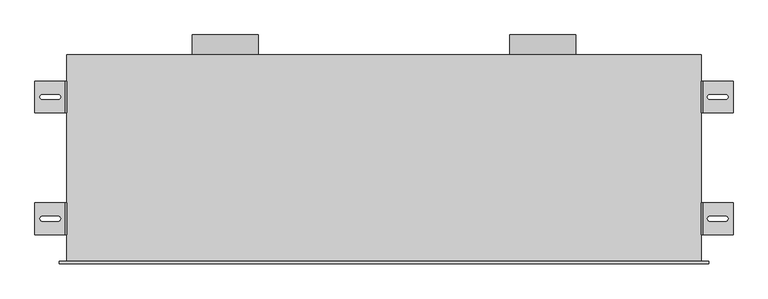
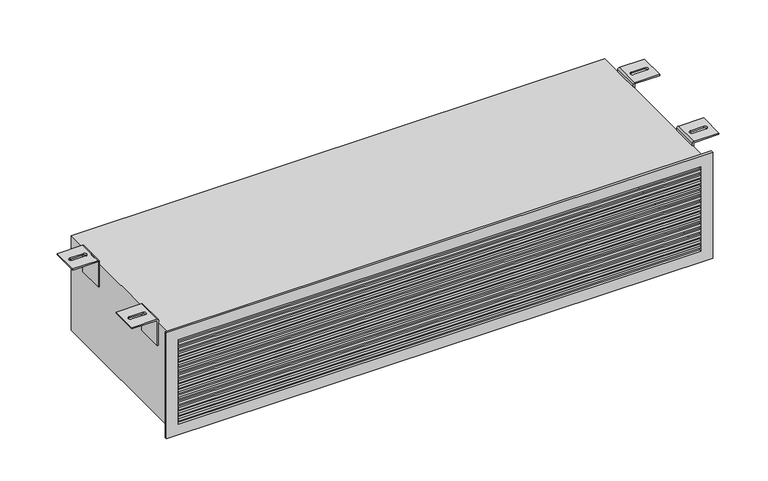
"""IFC4 building model written with IfcOpenShell, lengths in millimetres: air terminal geometry, EOL - Mural - 2 piquages : EOL-M2x125-1200x225-2."""

import ifcopenshell
import ifcopenshell.guid

model = None  # the IFC model being written
_history = None  # IfcOwnerHistory: only IFC2X3 demands one
_inside = {}  # id of a spatial element -> (the spatial element, [elements in it])
_under = {}  # id of a project, library or spatial element -> (it, [spatial elements below it])
_declared = {}  # id of a project -> (the project, [libraries it declares])
_typed = {}  # id of a type object -> (the type object, [elements of that type])
_made_of = {}  # id of a material, layer set ... -> (it, [elements and type objects made of it])


def new_model(schema):
    """Start an empty IFC model of exactly this schema.

    Asked for "IFC4X3", IfcOpenShell would pick the latest addendum, in which some entities
    have other attributes; the version numbers below select the first issue.
    IFC2X3 requires an IfcOwnerHistory on every rooted entity: one is made here for all.
    """
    global model, _history
    if schema == "IFC4X3":
        model = ifcopenshell.file(schema_version=(4, 3, 0, 0))
    else:
        model = ifcopenshell.file(schema=schema)
    _inside.clear()
    _under.clear()
    _declared.clear()
    _typed.clear()
    _made_of.clear()
    _history = None
    if model.schema == "IFC2X3":
        org = make("IfcOrganization", Name="unknown")
        user = make(
            "IfcPersonAndOrganization",
            ThePerson=make("IfcPerson", FamilyName="unknown"),
            TheOrganization=org,
        )
        app = make(
            "IfcApplication",
            ApplicationDeveloper=org,
            Version="unknown",
            ApplicationFullName="unknown",
            ApplicationIdentifier="unknown",
        )
        _history = make(
            "IfcOwnerHistory",
            OwningUser=user,
            OwningApplication=app,
            ChangeAction="ADDED",
            CreationDate=0,
        )
    return model


def make(cls, **values):
    """One entity of the class cls with the attributes given. An attribute that is None is left unset."""
    return model.create_entity(
        cls, **{name: value for name, value in values.items() if value is not None}
    )


def rooted(cls, **values):
    """An entity with a GlobalId (a new one), such as an element, a storey or a relation."""
    return make(cls, GlobalId=ifcopenshell.guid.new(), OwnerHistory=_history, **values)


def si_unit(unit_type, name, prefix=None):
    """IfcSIUnit, for example si_unit("LENGTHUNIT", "METRE", prefix="MILLI")."""
    return make("IfcSIUnit", UnitType=unit_type, Prefix=prefix, Name=name)


def assignment(units):
    """IfcUnitAssignment: the units of a project."""
    return None if units is None else make("IfcUnitAssignment", Units=units)


def point(xyz):
    """IfcCartesianPoint."""
    return None if xyz is None else make("IfcCartesianPoint", Coordinates=xyz)


def direction(xyz):
    """IfcDirection."""
    return None if xyz is None else make("IfcDirection", DirectionRatios=xyz)


def frame(location, z_axis=None, x_axis=None):
    """IfcAxis2Placement3D, a coordinate frame: its origin and axes. An axis left out is left unset."""
    return make(
        "IfcAxis2Placement3D",
        Location=point(location),
        Axis=direction(z_axis),
        RefDirection=direction(x_axis),
    )


def frame_2d(location, x_axis=None):
    """IfcAxis2Placement2D, a coordinate frame in the plane: its origin and x axis."""
    return make(
        "IfcAxis2Placement2D", Location=point(location), RefDirection=direction(x_axis)
    )


def origin():
    """The frame at (0, 0, 0) with its axes left unset."""
    return frame((0.0, 0.0, 0.0))


def place(relative_to, where):
    """IfcLocalPlacement: puts the frame where relative to a parent placement (None: the world)."""
    return make(
        "IfcLocalPlacement", PlacementRelTo=relative_to, RelativePlacement=where
    )


def context(
    kind, dimensions, precision=None, world=None, true_north=None, identifier=None
):
    """IfcGeometricRepresentationContext, for example the 3D "Model" context."""
    return make(
        "IfcGeometricRepresentationContext",
        ContextIdentifier=identifier,
        ContextType=kind,
        CoordinateSpaceDimension=dimensions,
        Precision=precision,
        WorldCoordinateSystem=world,
        TrueNorth=true_north,
    )


def project(units=None, contexts=None):
    """IfcProject with its units and contexts."""
    return rooted(
        "IfcProject",
        Name="project",
        RepresentationContexts=contexts,
        UnitsInContext=assignment(units),
    )


def spatial(cls, under=None, at=None, **own):
    """A site, building, storey or space (cls), placed at a placement, below another one or the project."""
    s = rooted(cls, ObjectPlacement=at, **own)
    if under is not None:
        _under.setdefault(under.id(), (under, []))[1].append(s)
    return s


def polyline(points):
    """IfcPolyline through the points."""
    return make("IfcPolyline", Points=[point(p) for p in points])


def circle_curve(where, radius):
    """IfcCircle in the frame where."""
    return make("IfcCircle", Position=where, Radius=radius)


def ellipse_curve(where, semi_axis1, semi_axis2):
    """IfcEllipse in the frame where."""
    return make(
        "IfcEllipse", Position=where, SemiAxis1=semi_axis1, SemiAxis2=semi_axis2
    )


def trimmed(basis, trim1, trim2, sense, master):
    """IfcTrimmedCurve: the piece of a basis curve between two trims."""
    return make(
        "IfcTrimmedCurve",
        BasisCurve=basis,
        Trim1=trim1,
        Trim2=trim2,
        SenseAgreement=sense,
        MasterRepresentation=master,
    )


def segment(curve, same_sense, transition):
    """IfcCompositeCurveSegment."""
    return make(
        "IfcCompositeCurveSegment",
        Transition=transition,
        SameSense=same_sense,
        ParentCurve=curve,
    )


def composite_curve(segments, self_intersect=None):
    """IfcCompositeCurve: segments joined end to end."""
    return make("IfcCompositeCurve", Segments=segments, SelfIntersect=self_intersect)


def outline(outer, holes=None, kind="AREA"):
    """IfcArbitraryClosedProfileDef: a profile drawn as a closed curve; with holes, ...WithVoids."""
    if holes is None:
        return make("IfcArbitraryClosedProfileDef", ProfileType=kind, OuterCurve=outer)
    return make(
        "IfcArbitraryProfileDefWithVoids",
        ProfileType=kind,
        OuterCurve=outer,
        InnerCurves=holes,
    )


def extrude(swept, where, along, depth):
    """IfcExtrudedAreaSolid: the profile swept, set in the frame where, extruded along a direction by depth."""
    return make(
        "IfcExtrudedAreaSolid",
        SweptArea=swept,
        Position=where,
        ExtrudedDirection=direction(along),
        Depth=depth,
    )


def shape(context_of_items, identifier, shape_type, items):
    """IfcShapeRepresentation: the items that make up one representation, for example the "Body"."""
    return make(
        "IfcShapeRepresentation",
        ContextOfItems=context_of_items,
        RepresentationIdentifier=identifier,
        RepresentationType=shape_type,
        Items=items,
    )


def source(mapping_origin, context_of_items, identifier, shape_type, items):
    """IfcRepresentationMap: a shape defined once, which mapped items show again and again."""
    return make(
        "IfcRepresentationMap",
        MappingOrigin=mapping_origin,
        MappedRepresentation=shape(context_of_items, identifier, shape_type, items),
    )


def transform(
    local_origin,
    x_axis=None,
    y_axis=None,
    z_axis=None,
    scale=None,
    scale2=None,
    scale3=None,
    uniform=True,
):
    """IfcCartesianTransformationOperator3D, or its non-uniform kind. x_axis, y_axis, z_axis: its Axis1, 2, 3."""
    if uniform:
        return make(
            "IfcCartesianTransformationOperator3D",
            Axis1=direction(x_axis),
            Axis2=direction(y_axis),
            LocalOrigin=point(local_origin),
            Scale=scale,
            Axis3=direction(z_axis),
        )
    return make(
        "IfcCartesianTransformationOperator3DnonUniform",
        Axis1=direction(x_axis),
        Axis2=direction(y_axis),
        LocalOrigin=point(local_origin),
        Scale=scale,
        Axis3=direction(z_axis),
        Scale2=scale2,
        Scale3=scale3,
    )


def mapped(mapping_source, mapping_target):
    """IfcMappedItem: shows the shape of a source again, moved by a transform."""
    return make(
        "IfcMappedItem", MappingSource=mapping_source, MappingTarget=mapping_target
    )


def made_of(thing, what):
    """Note that an element or type object is made of a material, layer set ...; save() writes the relation."""
    if what is not None:
        _made_of.setdefault(what.id(), (what, []))[1].append(thing)
    return thing


def element(
    cls,
    number,
    at=None,
    inside=None,
    cuts=None,
    type_object=None,
    material=None,
    context=None,
    identifier="Body",
    shape_type=None,
    held_by="IfcProductDefinitionShape",
    body=None,
    shapes=None,
    **own,
):
    """One element of the class cls, such as IfcWall. Its Tag is "e" and its number.

    at: its placement. inside: the storey or other place that contains it. cuts: it is an
    opening in that element (IfcRelVoidsElement). A single representation is given by context,
    identifier, shape_type and body (its items); several are given by shapes. held_by: the class
    of the entity that holds the representations. save() writes the other relations.
    """
    e = rooted(cls, Tag="e%d" % number, ObjectPlacement=at, **own)
    if body is not None:
        shapes = [shape(context, identifier, shape_type, body)]
    if shapes is not None:
        e.Representation = make(held_by, Representations=shapes)
    if inside is not None:
        _inside.setdefault(inside.id(), (inside, []))[1].append(e)
    if cuts is not None:
        rooted(
            "IfcRelVoidsElement", RelatingBuildingElement=cuts, RelatedOpeningElement=e
        )
    if type_object is not None:
        _typed.setdefault(type_object.id(), (type_object, []))[1].append(e)
    return made_of(e, material)


def aggregate(whole, parts):
    """IfcRelAggregates: a whole, such as a stair, and the parts it consists of."""
    return rooted("IfcRelAggregates", RelatingObject=whole, RelatedObjects=parts)


def save(model, path):
    """Write the relations noted so far, then the file.

    IfcRelAggregates (storeys below a building ...), IfcRelContainedInSpatialStructure (elements
    in a storey), IfcRelDefinesByType, IfcRelAssociatesMaterial and IfcRelDeclares: one each for
    every whole, place, type object, material and project.
    """
    for whole, parts in _under.values():
        aggregate(whole, parts)
    for where, things in _inside.values():
        rooted(
            "IfcRelContainedInSpatialStructure",
            RelatedElements=things,
            RelatingStructure=where,
        )
    for kind, things in _typed.values():
        rooted("IfcRelDefinesByType", RelatedObjects=things, RelatingType=kind)
    for what, things in _made_of.values():
        rooted("IfcRelAssociatesMaterial", RelatedObjects=things, RelatingMaterial=what)
    for by, libraries in _declared.values():
        rooted("IfcRelDeclares", RelatingContext=by, RelatedDefinitions=libraries)
    model.write(path)


def plane_surface(at):
    """IfcPlane: the flat surface through the origin of the frame at, square to its z axis."""
    return make("IfcPlane", Position=at)


def cylinder_surface(at, radius):
    """IfcCylindricalSurface: all points at the distance radius from the z axis of the frame at."""
    return make("IfcCylindricalSurface", Position=at, Radius=radius)


def revolved_surface(curve, axis_point, axis_direction):
    """IfcSurfaceOfRevolution: the curve turned about the line through axis_point along axis_direction."""
    return make(
        "IfcSurfaceOfRevolution",
        SweptCurve=make("IfcArbitraryOpenProfileDef", ProfileType="CURVE", Curve=curve),
        AxisPosition=make("IfcAxis1Placement", Location=point(axis_point), Axis=direction(axis_direction)),
    )


def extruded_surface(curve, direction_of_extrusion, depth):
    """IfcSurfaceOfLinearExtrusion: the curve pushed along a direction by depth."""
    return make(
        "IfcSurfaceOfLinearExtrusion",
        SweptCurve=make("IfcArbitraryOpenProfileDef", ProfileType="CURVE", Curve=curve),
        ExtrudedDirection=direction(direction_of_extrusion),
        Depth=depth,
    )


def advanced_brep(points, edges, surfaces, faces):
    """IfcAdvancedBrep: a solid bounded by faces that lie on surfaces and meet in shared edges.

    An edge is (start, end): straight between two places in points (the first is 0);
    or (start, end, curve); or (start, end, curve, False) where it runs against its curve.
    A face is (place in surfaces, loops), or (place, loops, False) where it looks against
    its surface's normal. A loop lists edges by number (the first is 1), with a minus sign
    where the edge is run from its end to its start. The first loop is the outer one.
    """
    corners = [point(p) for p in points]
    vertices = [make("IfcVertexPoint", VertexGeometry=c) for c in corners]
    made = []
    for start, end, *more in edges:
        made.append(
            make(
                "IfcEdgeCurve",
                EdgeStart=vertices[start],
                EdgeEnd=vertices[end],
                EdgeGeometry=more[0] if more else make("IfcPolyline", Points=[corners[start], corners[end]]),
                SameSense=more[1] if len(more) > 1 else True,
            )
        )
    hull = []
    for where, loops, *sense in faces:
        bounds = []
        for j, loop in enumerate(loops):
            ring = [make("IfcOrientedEdge", EdgeElement=made[abs(k) - 1], Orientation=k > 0) for k in loop]
            bounds.append(
                make(
                    "IfcFaceOuterBound" if j == 0 else "IfcFaceBound",
                    Bound=make("IfcEdgeLoop", EdgeList=ring),
                    Orientation=True,
                )
            )
        hull.append(make("IfcAdvancedFace", Bounds=bounds, FaceSurface=surfaces[where], SameSense=sense[0] if sense else True))
    return make("IfcAdvancedBrep", Outer=make("IfcClosedShell", CfsFaces=hull))


def air_terminal_c7b727d0(model_context):
    return source(origin(), model_context, "Body", "SolidModel", [
        advanced_brep(
        [(604.0013366, 110.0, 121.5), (660.0, 110.0, 121.5), (660.0, 110.0, 118.5), (604.0, 110.0, 118.5), (603.0, 110.0, 117.5), (603.0, 110.0, 58.5), (600.0, 110.0, 58.5), (600.0, 110.0, 117.4986634), (604.0013366, 50.0, 121.5), (600.0, 50.0, 117.4986634), (600.0, 50.0, 58.5), (603.0, 50.0, 58.5), (603.0, 50.0, 117.5), (604.0, 50.0, 118.5), (660.0, 50.0, 118.5), (660.0, 50.0, 121.5), (646.0287952, 75.4804328, 121.5), (616.0287952, 75.4804328, 121.5), (616.0287952, 84.4804328, 121.5), (646.0287952, 84.4804328, 121.5), (616.0287952, 75.4804328, 118.5), (646.0287952, 75.4804328, 118.5), (646.0287952, 84.4804328, 118.5), (616.0287952, 84.4804328, 118.5)],
        [
            (0, 1),
            (1, 2),
            (2, 3),
            (3, 4, circle_curve(frame((604.0, 110.0, 117.5), z_axis=(0.0, -1.0, 0.0), x_axis=(-1.0000000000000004, 0.0, 0.0)), 1.0)),
            (4, 5),
            (5, 6),
            (6, 7),
            (7, 0, circle_curve(frame((604.0013366, 110.0, 117.4986634), z_axis=(0.0, 1.0, 0.0), x_axis=(-1.0000000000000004, 0.0, 0.0)), 4.0013366)),
            (8, 9, circle_curve(frame((604.0013366, 50.0, 117.4986634), z_axis=(0.0, -1.0, 0.0), x_axis=(-1.0000000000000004, 0.0, 0.0)), 4.0013366)),
            (9, 10),
            (10, 11),
            (11, 12),
            (12, 13, circle_curve(frame((604.0, 50.0, 117.5), z_axis=(0.0, 1.0, 0.0), x_axis=(-1.0000000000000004, 0.0, 0.0)), 1.0)),
            (13, 14),
            (14, 15),
            (15, 8),
            (0, 8),
            (15, 1),
            (16, 17),
            (17, 18, circle_curve(frame((616.0287952, 79.9804328, 121.5), z_axis=(0.0, 0.0, -1.0), x_axis=(0.0, -1.0, 0.0)), 4.5)),
            (18, 19),
            (19, 16, circle_curve(frame((646.0287952, 79.9804328, 121.5), z_axis=(0.0, 0.0, -1.0), x_axis=(0.0, -1.0, 0.0)), 4.5)),
            (14, 2),
            (13, 3),
            (20, 21),
            (21, 22, ellipse_curve(frame((646.0287952, 79.9804328, 118.5), z_axis=(0.0, 0.0, 1.0), x_axis=(0.0, -1.0, 0.0)), 4.5, 4.5)),
            (22, 23),
            (23, 20, ellipse_curve(frame((616.0287952, 79.9804328, 118.5), z_axis=(0.0, 0.0, 1.0), x_axis=(0.0, -1.0, 0.0)), 4.5, 4.5)),
            (12, 4),
            (11, 5),
            (10, 6),
            (9, 7),
            (16, 21),
            (20, 17),
            (19, 22),
            (18, 23),
        ],
        [
            plane_surface(frame((660.0, 110.0, 121.5), z_axis=(0.0, 1.0, 0.0), x_axis=(1.0, 0.0, 0.0))),
            plane_surface(frame((660.0, 50.0, 121.5), z_axis=(0.0, -1.0, 0.0), x_axis=(-1.0, 0.0, 0.0))),
            plane_surface(frame((604.0013366, 110.0, 121.5), z_axis=(0.0, 0.0, 1.0), x_axis=(0.0, -1.0, 0.0))),
            plane_surface(frame((660.0, 110.0, 121.5), z_axis=(1.0, 0.0, 0.0), x_axis=(0.0, -1.0, 0.0))),
            plane_surface(frame((660.0, 110.0, 118.5), z_axis=(0.0, 0.0, -1.0), x_axis=(0.0, -1.0, 0.0))),
            revolved_surface(polyline([(603.0, 50.0, 117.5), (603.0, 110.00000000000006, 117.5)]), (604.0, 50.0, 117.5), (0.0, -1.0000000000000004, 0.0)),
            plane_surface(frame((603.0, 110.0, 117.5), z_axis=(1.0, 0.0, 0.0), x_axis=(0.0, -1.0, 0.0))),
            plane_surface(frame((603.0, 110.0, 58.5), z_axis=(0.0, 0.0, -1.0), x_axis=(0.0, -1.0, 0.0))),
            plane_surface(frame((600.0, 110.0, 58.5), z_axis=(-1.0, 0.0, 0.0), x_axis=(0.0, -1.0, 0.0))),
            cylinder_surface(frame((604.0013366, 50.0, 117.4986634), z_axis=(0.0, 1.0000000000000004, 0.0), x_axis=(-1.0000000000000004, 0.0, 0.0)), 4.0013366),
            plane_surface(frame((616.0287952, 75.4804328, 121.5), z_axis=(0.0, 1.0, 0.0), x_axis=(0.0, 0.0, -1.0))),
            extruded_surface(trimmed(ellipse_curve(frame((646.0287952, 79.9804328, 118.5), z_axis=(0.0, 0.0, 1.0), x_axis=(0.0, -1.0, 0.0)), 4.5, 4.5), [point((646.0287952, 75.4804328, 118.5))], [point((646.0287952, 84.4804328, 118.5))], True, "CARTESIAN"), (0.0, 0.0, -3.0), 3.0),
            plane_surface(frame((646.0287952, 84.4804328, 121.5), z_axis=(0.0, -1.0, 0.0), x_axis=(0.0, 0.0, -1.0))),
            extruded_surface(trimmed(ellipse_curve(frame((616.0287952, 79.9804328, 118.5), z_axis=(0.0, 0.0, 1.0), x_axis=(0.0, -1.0, 0.0)), 4.5, 4.5), [point((616.0287952, 84.4804328, 118.5))], [point((616.0287952, 75.4804328, 118.5))], True, "CARTESIAN"), (0.0, 0.0, -3.0), 3.0),
        ],
        [
            (0, [[1, 2, 3, 4, 5, 6, 7, 8]]),
            (1, [[9, 10, 11, 12, 13, 14, 15, 16]]),
            (2, [[-1, 17, -16, 18], [19, 20, 21, 22]]),
            (3, [[-2, -18, -15, 23]]),
            (4, [[-3, -23, -14, 24], [25, 26, 27, 28]]),
            (5, [[-4, -24, -13, 29]]),
            (6, [[-5, -29, -12, 30]]),
            (7, [[-6, -30, -11, 31]]),
            (8, [[-7, -31, -10, 32]]),
            (9, [[-8, -32, -9, -17]]),
            (10, [[33, -25, 34, -19]]),
            (11, [[-33, -22, 35, -26]]),
            (12, [[-35, -21, 36, -27]]),
            (13, [[-34, -28, -36, -20]]),
        ],
    ),
        advanced_brep(
        [(604.0013366, 340.0, 121.5), (660.0, 340.0, 121.5), (660.0, 340.0, 118.5), (604.0, 340.0, 118.5), (603.0, 340.0, 117.5), (603.0, 340.0, 58.5), (600.0, 340.0, 58.5), (600.0, 340.0, 117.4986634), (604.0013366, 280.0, 121.5), (600.0, 280.0, 117.4986634), (600.0, 280.0, 58.5), (603.0, 280.0, 58.5), (603.0, 280.0, 117.5), (604.0, 280.0, 118.5), (660.0, 280.0, 118.5), (660.0, 280.0, 121.5), (646.0287952, 305.4804328, 121.5), (616.0287952, 305.4804328, 121.5), (616.0287952, 314.4804328, 121.5), (646.0287952, 314.4804328, 121.5), (616.0287952, 305.4804328, 118.5), (646.0287952, 305.4804328, 118.5), (646.0287952, 314.4804328, 118.5), (616.0287952, 314.4804328, 118.5)],
        [
            (0, 1),
            (1, 2),
            (2, 3),
            (3, 4, circle_curve(frame((604.0, 340.0, 117.5), z_axis=(0.0, -1.0, 0.0), x_axis=(-1.0, 0.0, 0.0)), 1.0)),
            (4, 5),
            (5, 6),
            (6, 7),
            (7, 0, circle_curve(frame((604.0013366, 340.0, 117.4986634), z_axis=(0.0, 1.0, 0.0), x_axis=(-1.0, 0.0, 0.0)), 4.0013366)),
            (8, 9, circle_curve(frame((604.0013366, 280.0, 117.4986634), z_axis=(0.0, -1.0, 0.0), x_axis=(-1.0, 0.0, 0.0)), 4.0013366)),
            (9, 10),
            (10, 11),
            (11, 12),
            (12, 13, circle_curve(frame((604.0, 280.0, 117.5), z_axis=(0.0, 1.0, 0.0), x_axis=(-1.0, 0.0, 0.0)), 1.0)),
            (13, 14),
            (14, 15),
            (15, 8),
            (0, 8),
            (15, 1),
            (16, 17),
            (17, 18, circle_curve(frame((616.0287952, 309.9804328, 121.5), z_axis=(0.0, 0.0, -1.0), x_axis=(0.0, -1.0, 0.0)), 4.5)),
            (18, 19),
            (19, 16, circle_curve(frame((646.0287952, 309.9804328, 121.5), z_axis=(0.0, 0.0, -1.0), x_axis=(0.0, -1.0, 0.0)), 4.5)),
            (14, 2),
            (13, 3),
            (20, 21),
            (21, 22, ellipse_curve(frame((646.0287952, 309.9804328, 118.5), z_axis=(0.0, 0.0, 1.0), x_axis=(0.0, -1.0, 0.0)), 4.5, 4.5)),
            (22, 23),
            (23, 20, ellipse_curve(frame((616.0287952, 309.9804328, 118.5), z_axis=(0.0, 0.0, 1.0), x_axis=(0.0, -1.0, 0.0)), 4.5, 4.5)),
            (12, 4),
            (11, 5),
            (10, 6),
            (9, 7),
            (16, 21),
            (20, 17),
            (19, 22),
            (18, 23),
        ],
        [
            plane_surface(frame((660.0, 340.0, 121.5), z_axis=(0.0, 1.0, 0.0), x_axis=(1.0, 0.0, 0.0))),
            plane_surface(frame((660.0, 280.0, 121.5), z_axis=(0.0, -1.0, 0.0), x_axis=(-1.0, 0.0, 0.0))),
            plane_surface(frame((604.0013366, 340.0, 121.5), z_axis=(0.0, 0.0, 1.0), x_axis=(0.0, -1.0, 0.0))),
            plane_surface(frame((660.0, 340.0, 121.5), z_axis=(1.0, 0.0, 0.0), x_axis=(0.0, -1.0, 0.0))),
            plane_surface(frame((660.0, 340.0, 118.5), z_axis=(0.0, 0.0, -1.0), x_axis=(0.0, -1.0, 0.0))),
            revolved_surface(polyline([(603.0, 280.0, 117.5), (603.0, 340.0, 117.5)]), (604.0, 280.0, 117.5), (0.0, -1.0, 0.0)),
            plane_surface(frame((603.0, 340.0, 117.5), z_axis=(1.0, 0.0, 0.0), x_axis=(0.0, -1.0, 0.0))),
            plane_surface(frame((603.0, 340.0, 58.5), z_axis=(0.0, 0.0, -1.0), x_axis=(0.0, -1.0, 0.0))),
            plane_surface(frame((600.0, 340.0, 58.5), z_axis=(-1.0, 0.0, 0.0), x_axis=(0.0, -1.0, 0.0))),
            cylinder_surface(frame((604.0013366, 280.0, 117.4986634), z_axis=(0.0, 1.0, 0.0), x_axis=(-1.0, 0.0, 0.0)), 4.0013366),
            plane_surface(frame((616.0287952, 305.4804328, 121.5), z_axis=(0.0, 1.0, 0.0), x_axis=(0.0, 0.0, -1.0))),
            extruded_surface(trimmed(ellipse_curve(frame((646.0287952, 309.9804328, 118.5), z_axis=(0.0, 0.0, 1.0), x_axis=(0.0, -1.0, 0.0)), 4.5, 4.5), [point((646.0287952, 305.4804328, 118.5))], [point((646.0287952, 314.4804328, 118.5))], True, "CARTESIAN"), (0.0, 0.0, -3.0), 3.0),
            plane_surface(frame((646.0287952, 314.4804328, 121.5), z_axis=(0.0, -1.0, 0.0), x_axis=(0.0, 0.0, -1.0))),
            extruded_surface(trimmed(ellipse_curve(frame((616.0287952, 309.9804328, 118.5), z_axis=(0.0, 0.0, 1.0), x_axis=(0.0, -1.0, 0.0)), 4.5, 4.5), [point((616.0287952, 314.4804328, 118.5))], [point((616.0287952, 305.4804328, 118.5))], True, "CARTESIAN"), (0.0, 0.0, -3.0), 3.0),
        ],
        [
            (0, [[1, 2, 3, 4, 5, 6, 7, 8]]),
            (1, [[9, 10, 11, 12, 13, 14, 15, 16]]),
            (2, [[-1, 17, -16, 18], [19, 20, 21, 22]]),
            (3, [[-2, -18, -15, 23]]),
            (4, [[-3, -23, -14, 24], [25, 26, 27, 28]]),
            (5, [[-4, -24, -13, 29]]),
            (6, [[-5, -29, -12, 30]]),
            (7, [[-6, -30, -11, 31]]),
            (8, [[-7, -31, -10, 32]]),
            (9, [[-8, -32, -9, -17]]),
            (10, [[33, -25, 34, -19]]),
            (11, [[-33, -22, 35, -26]]),
            (12, [[-35, -21, 36, -27]]),
            (13, [[-34, -28, -36, -20]]),
        ],
    ),
        advanced_brep(
        [(-604.0013366, 50.0, 121.5), (-660.0, 50.0, 121.5), (-660.0, 50.0, 118.5), (-604.0, 50.0, 118.5), (-603.0, 50.0, 117.5), (-603.0, 50.0, 58.5), (-600.0, 50.0, 58.5), (-600.0, 50.0, 117.4986634), (-604.0013366, 110.0, 121.5), (-600.0, 110.0, 117.4986634), (-600.0, 110.0, 58.5), (-603.0, 110.0, 58.5), (-603.0, 110.0, 117.5), (-604.0, 110.0, 118.5), (-660.0, 110.0, 118.5), (-660.0, 110.0, 121.5), (-646.0287952, 84.5195672, 121.5), (-616.0287952, 84.5195672, 121.5), (-616.0287952, 75.5195672, 121.5), (-646.0287952, 75.5195672, 121.5), (-616.0287952, 84.5195672, 118.5), (-646.0287952, 84.5195672, 118.5), (-646.0287952, 75.5195672, 118.5), (-616.0287952, 75.5195672, 118.5)],
        [
            (0, 1),
            (1, 2),
            (2, 3),
            (3, 4, circle_curve(frame((-604.0, 50.0, 117.5), z_axis=(0.0, 1.0, 0.0), x_axis=(1.0, 0.0, 0.0)), 1.0)),
            (4, 5),
            (5, 6),
            (6, 7),
            (7, 0, circle_curve(frame((-604.0013366, 50.0, 117.4986634), z_axis=(0.0, -1.0, 0.0), x_axis=(1.0, 0.0, 0.0)), 4.0013366)),
            (8, 9, circle_curve(frame((-604.0013366, 110.0, 117.4986634), z_axis=(0.0, 1.0, 0.0), x_axis=(1.0, 0.0, 0.0)), 4.0013366)),
            (9, 10),
            (10, 11),
            (11, 12),
            (12, 13, circle_curve(frame((-604.0, 110.0, 117.5), z_axis=(0.0, -1.0, 0.0), x_axis=(1.0, 0.0, 0.0)), 1.0)),
            (13, 14),
            (14, 15),
            (15, 8),
            (0, 8),
            (15, 1),
            (16, 17),
            (17, 18, circle_curve(frame((-616.0287952, 80.0195672, 121.5), z_axis=(0.0, 0.0, -1.0), x_axis=(0.0, 1.0, 0.0)), 4.5)),
            (18, 19),
            (19, 16, circle_curve(frame((-646.0287952, 80.0195672, 121.5), z_axis=(0.0, 0.0, -1.0), x_axis=(0.0, 1.0, 0.0)), 4.5)),
            (14, 2),
            (13, 3),
            (20, 21),
            (21, 22, ellipse_curve(frame((-646.0287952, 80.0195672, 118.5), z_axis=(0.0, 0.0, 1.0), x_axis=(0.0, 1.0, 0.0)), 4.5, 4.5)),
            (22, 23),
            (23, 20, ellipse_curve(frame((-616.0287952, 80.0195672, 118.5), z_axis=(0.0, 0.0, 1.0), x_axis=(0.0, 1.0, 0.0)), 4.5, 4.5)),
            (12, 4),
            (11, 5),
            (10, 6),
            (9, 7),
            (16, 21),
            (20, 17),
            (19, 22),
            (18, 23),
        ],
        [
            plane_surface(frame((-660.0, 50.0, 121.5), z_axis=(0.0, -1.0, 0.0), x_axis=(-1.0, 0.0, 0.0))),
            plane_surface(frame((-660.0, 110.0, 121.5), z_axis=(0.0, 1.0, 0.0), x_axis=(1.0, 0.0, 0.0))),
            plane_surface(frame((-604.0013366, 50.0, 121.5), z_axis=(0.0, 0.0, 1.0), x_axis=(0.0, 1.0, 0.0))),
            plane_surface(frame((-660.0, 50.0, 121.5), z_axis=(-1.0, 0.0, 0.0), x_axis=(0.0, 1.0, 0.0))),
            plane_surface(frame((-660.0, 50.0, 118.5), z_axis=(0.0, 0.0, -1.0), x_axis=(0.0, 1.0, 0.0))),
            revolved_surface(polyline([(-603.0, 110.0, 117.5), (-603.0, 50.0, 117.5)]), (-604.0, 110.0, 117.5), (0.0, 1.0, 0.0)),
            plane_surface(frame((-603.0, 50.0, 117.5), z_axis=(-1.0, 0.0, 0.0), x_axis=(0.0, 1.0, 0.0))),
            plane_surface(frame((-603.0, 50.0, 58.5), z_axis=(0.0, 0.0, -1.0), x_axis=(0.0, 1.0, 0.0))),
            plane_surface(frame((-600.0, 50.0, 58.5), z_axis=(1.0, 0.0, 0.0), x_axis=(0.0, 1.0, 0.0))),
            cylinder_surface(frame((-604.0013366, 110.0, 117.4986634), z_axis=(0.0, -1.0, 0.0), x_axis=(1.0, 0.0, 0.0)), 4.0013366),
            plane_surface(frame((-616.0287952, 84.5195672, 121.5), z_axis=(0.0, -1.0, 0.0), x_axis=(0.0, 0.0, -1.0))),
            extruded_surface(trimmed(ellipse_curve(frame((-646.0287952, 80.0195672, 118.5), z_axis=(0.0, 0.0, 1.0), x_axis=(0.0, 1.0, 0.0)), 4.5, 4.5), [point((-646.0287952, 84.5195672, 118.5))], [point((-646.0287952, 75.5195672, 118.5))], True, "CARTESIAN"), (0.0, 0.0, -3.0), 3.0),
            plane_surface(frame((-646.0287952, 75.5195672, 121.5), z_axis=(0.0, 1.0, 0.0), x_axis=(0.0, 0.0, -1.0))),
            extruded_surface(trimmed(ellipse_curve(frame((-616.0287952, 80.0195672, 118.5), z_axis=(0.0, 0.0, 1.0), x_axis=(0.0, 1.0, 0.0)), 4.5, 4.5), [point((-616.0287952, 75.5195672, 118.5))], [point((-616.0287952, 84.5195672, 118.5))], True, "CARTESIAN"), (0.0, 0.0, -3.0), 3.0),
        ],
        [
            (0, [[1, 2, 3, 4, 5, 6, 7, 8]]),
            (1, [[9, 10, 11, 12, 13, 14, 15, 16]]),
            (2, [[-1, 17, -16, 18], [19, 20, 21, 22]]),
            (3, [[-2, -18, -15, 23]]),
            (4, [[-3, -23, -14, 24], [25, 26, 27, 28]]),
            (5, [[-4, -24, -13, 29]]),
            (6, [[-5, -29, -12, 30]]),
            (7, [[-6, -30, -11, 31]]),
            (8, [[-7, -31, -10, 32]]),
            (9, [[-8, -32, -9, -17]]),
            (10, [[33, -25, 34, -19]]),
            (11, [[-33, -22, 35, -26]]),
            (12, [[-35, -21, 36, -27]]),
            (13, [[-34, -28, -36, -20]]),
        ],
    ),
        advanced_brep(
        [(-604.0013366, 280.0, 121.5), (-660.0, 280.0, 121.5), (-660.0, 280.0, 118.5), (-604.0, 280.0, 118.5), (-603.0, 280.0, 117.5), (-603.0, 280.0, 58.5), (-600.0, 280.0, 58.5), (-600.0, 280.0, 117.4986634), (-604.0013366, 340.0, 121.5), (-600.0, 340.0, 117.4986634), (-600.0, 340.0, 58.5), (-603.0, 340.0, 58.5), (-603.0, 340.0, 117.5), (-604.0, 340.0, 118.5), (-660.0, 340.0, 118.5), (-660.0, 340.0, 121.5), (-646.0287952, 314.5195672, 121.5), (-616.0287952, 314.5195672, 121.5), (-616.0287952, 305.5195672, 121.5), (-646.0287952, 305.5195672, 121.5), (-616.0287952, 314.5195672, 118.5), (-646.0287952, 314.5195672, 118.5), (-646.0287952, 305.5195672, 118.5), (-616.0287952, 305.5195672, 118.5)],
        [
            (0, 1),
            (1, 2),
            (2, 3),
            (3, 4, circle_curve(frame((-604.0, 280.0, 117.5), z_axis=(0.0, 1.0, 0.0), x_axis=(1.0, 0.0, 0.0)), 1.0)),
            (4, 5),
            (5, 6),
            (6, 7),
            (7, 0, circle_curve(frame((-604.0013366, 280.0, 117.4986634), z_axis=(0.0, -1.0, 0.0), x_axis=(1.0, 0.0, 0.0)), 4.0013366)),
            (8, 9, circle_curve(frame((-604.0013366, 340.0, 117.4986634), z_axis=(0.0, 1.0, 0.0), x_axis=(1.0, 0.0, 0.0)), 4.0013366)),
            (9, 10),
            (10, 11),
            (11, 12),
            (12, 13, circle_curve(frame((-604.0, 340.0, 117.5), z_axis=(0.0, -1.0, 0.0), x_axis=(1.0, 0.0, 0.0)), 1.0)),
            (13, 14),
            (14, 15),
            (15, 8),
            (0, 8),
            (15, 1),
            (16, 17),
            (17, 18, circle_curve(frame((-616.0287952, 310.0195672, 121.5), z_axis=(0.0, 0.0, -1.0), x_axis=(0.0, 1.0, 0.0)), 4.5)),
            (18, 19),
            (19, 16, circle_curve(frame((-646.0287952, 310.0195672, 121.5), z_axis=(0.0, 0.0, -1.0), x_axis=(0.0, 1.0, 0.0)), 4.5)),
            (14, 2),
            (13, 3),
            (20, 21),
            (21, 22, ellipse_curve(frame((-646.0287952, 310.0195672, 118.5), z_axis=(0.0, 0.0, 1.0), x_axis=(0.0, 1.0, 0.0)), 4.5, 4.5)),
            (22, 23),
            (23, 20, ellipse_curve(frame((-616.0287952, 310.0195672, 118.5), z_axis=(0.0, 0.0, 1.0), x_axis=(0.0, 1.0, 0.0)), 4.5, 4.5)),
            (12, 4),
            (11, 5),
            (10, 6),
            (9, 7),
            (16, 21),
            (20, 17),
            (19, 22),
            (18, 23),
        ],
        [
            plane_surface(frame((-660.0, 280.0, 121.5), z_axis=(0.0, -1.0, 0.0), x_axis=(-1.0, 0.0, 0.0))),
            plane_surface(frame((-660.0, 340.0, 121.5), z_axis=(0.0, 1.0, 0.0), x_axis=(1.0, 0.0, 0.0))),
            plane_surface(frame((-604.0013366, 280.0, 121.5), z_axis=(0.0, 0.0, 1.0), x_axis=(0.0, 1.0, 0.0))),
            plane_surface(frame((-660.0, 280.0, 121.5), z_axis=(-1.0, 0.0, 0.0), x_axis=(0.0, 1.0, 0.0))),
            plane_surface(frame((-660.0, 280.0, 118.5), z_axis=(0.0, 0.0, -1.0), x_axis=(0.0, 1.0, 0.0))),
            revolved_surface(polyline([(-603.0, 340.0, 117.5), (-603.0, 280.0, 117.5)]), (-604.0, 340.0, 117.5), (0.0, 1.0, 0.0)),
            plane_surface(frame((-603.0, 280.0, 117.5), z_axis=(-1.0, 0.0, 0.0), x_axis=(0.0, 1.0, 0.0))),
            plane_surface(frame((-603.0, 280.0, 58.5), z_axis=(0.0, 0.0, -1.0), x_axis=(0.0, 1.0, 0.0))),
            plane_surface(frame((-600.0, 280.0, 58.5), z_axis=(1.0, 0.0, 0.0), x_axis=(0.0, 1.0, 0.0))),
            cylinder_surface(frame((-604.0013366, 340.0, 117.4986634), z_axis=(0.0, -1.0, 0.0), x_axis=(1.0, 0.0, 0.0)), 4.0013366),
            plane_surface(frame((-616.0287952, 314.5195672, 121.5), z_axis=(0.0, -1.0, 0.0), x_axis=(0.0, 0.0, -1.0))),
            extruded_surface(trimmed(ellipse_curve(frame((-646.0287952, 310.0195672, 118.5), z_axis=(0.0, 0.0, 1.0), x_axis=(0.0, 1.0, 0.0)), 4.5, 4.5), [point((-646.0287952, 314.5195672, 118.5))], [point((-646.0287952, 305.5195672, 118.5))], True, "CARTESIAN"), (0.0, 0.0, -3.0), 3.0),
            plane_surface(frame((-646.0287952, 305.5195672, 121.5), z_axis=(0.0, 1.0, 0.0), x_axis=(0.0, 0.0, -1.0))),
            extruded_surface(trimmed(ellipse_curve(frame((-616.0287952, 310.0195672, 118.5), z_axis=(0.0, 0.0, 1.0), x_axis=(0.0, 1.0, 0.0)), 4.5, 4.5), [point((-616.0287952, 305.5195672, 118.5))], [point((-616.0287952, 314.5195672, 118.5))], True, "CARTESIAN"), (0.0, 0.0, -3.0), 3.0),
        ],
        [
            (0, [[1, 2, 3, 4, 5, 6, 7, 8]]),
            (1, [[9, 10, 11, 12, 13, 14, 15, 16]]),
            (2, [[-1, 17, -16, 18], [19, 20, 21, 22]]),
            (3, [[-2, -18, -15, 23]]),
            (4, [[-3, -23, -14, 24], [25, 26, 27, 28]]),
            (5, [[-4, -24, -13, 29]]),
            (6, [[-5, -29, -12, 30]]),
            (7, [[-6, -30, -11, 31]]),
            (8, [[-7, -31, -10, 32]]),
            (9, [[-8, -32, -9, -17]]),
            (10, [[33, -25, 34, -19]]),
            (11, [[-33, -22, 35, -26]]),
            (12, [[-35, -21, 36, -27]]),
            (13, [[-34, -28, -36, -20]]),
        ],
    ),
        extrude(outline(composite_curve([segment(trimmed(circle_curve(frame_2d((0.0, 300.0)), 62.5), [point((0.0, 237.5))], [point((0.0, 362.5))], False, "CARTESIAN"), True, "CONTINUOUS"), segment(trimmed(circle_curve(frame_2d((0.0, 300.0)), 62.5), [point((0.0, 362.5))], [point((0.0, 237.5))], False, "CARTESIAN"), True, "CONTINUOUS")], self_intersect=False), holes=[composite_curve([segment(trimmed(circle_curve(frame_2d((0.0, 300.0)), 61.5), [point((0.0, 361.5))], [point((0.0, 238.5))], True, "CARTESIAN"), True, "CONTINUOUS"), segment(trimmed(circle_curve(frame_2d((0.0, 300.0)), 61.5), [point((0.0, 238.5))], [point((0.0, 361.5))], True, "CARTESIAN"), True, "CONTINUOUS")], self_intersect=False)]), frame((0.0, 390.0, 0.0), z_axis=(0.0, 1.0, 0.0), x_axis=(0.0, 0.0, 1.0)), (0.0, 0.0, 1.0), 37.5),
        extrude(outline(composite_curve([segment(trimmed(circle_curve(frame_2d((0.0, -300.0)), 62.5), [point((0.0, -362.5))], [point((0.0, -237.5))], False, "CARTESIAN"), True, "CONTINUOUS"), segment(trimmed(circle_curve(frame_2d((0.0, -300.0)), 62.5), [point((0.0, -237.5))], [point((0.0, -362.5))], False, "CARTESIAN"), True, "CONTINUOUS")], self_intersect=False), holes=[composite_curve([segment(trimmed(circle_curve(frame_2d((0.0, -300.0)), 61.5), [point((0.0, -238.5))], [point((0.0, -361.5))], True, "CARTESIAN"), True, "CONTINUOUS"), segment(trimmed(circle_curve(frame_2d((0.0, -300.0)), 61.5), [point((0.0, -361.5))], [point((0.0, -238.5))], True, "CARTESIAN"), True, "CONTINUOUS")], self_intersect=False)]), frame((0.0, 390.0, 0.0), z_axis=(0.0, 1.0, 0.0), x_axis=(0.0, 0.0, 1.0)), (0.0, 0.0, 1.0), 37.5),
        extrude(outline(polyline([(587.5, 0.0), (587.5, -5.0), (-587.5, -5.0), (-587.5, 0.0), (587.5, 0.0)])), frame((0.0, 0.0, 87.15), z_axis=(0.0, 0.0, 1.0), x_axis=(1.0, 0.0, 0.0)), (0.0, 0.0, 1.0), 5.6),
        extrude(outline(polyline([(587.5, 0.0), (587.5, -5.0), (-587.5, -5.0), (-587.5, 0.0), (587.5, 0.0)])), frame((0.0, 0.0, 74.3), z_axis=(0.0, 0.0, 1.0), x_axis=(1.0, 0.0, 0.0)), (0.0, 0.0, 1.0), 5.6),
        extrude(outline(polyline([(587.5, 0.0), (587.5, -5.0), (-587.5, -5.0), (-587.5, 0.0), (587.5, 0.0)])), frame((0.0, 0.0, 61.45), z_axis=(0.0, 0.0, 1.0), x_axis=(1.0, 0.0, 0.0)), (0.0, 0.0, 1.0), 5.6),
        extrude(outline(polyline([(587.5, 0.0), (587.5, -5.0), (-587.5, -5.0), (-587.5, 0.0), (587.5, 0.0)])), frame((0.0, 0.0, 48.6), z_axis=(0.0, 0.0, 1.0), x_axis=(1.0, 0.0, 0.0)), (0.0, 0.0, 1.0), 5.6),
        extrude(outline(polyline([(587.5, 0.0), (587.5, -5.0), (-587.5, -5.0), (-587.5, 0.0), (587.5, 0.0)])), frame((0.0, 0.0, 35.75), z_axis=(0.0, 0.0, 1.0), x_axis=(1.0, 0.0, 0.0)), (0.0, 0.0, 1.0), 5.6),
        extrude(outline(polyline([(587.5, 0.0), (587.5, -5.0), (-587.5, -5.0), (-587.5, 0.0), (587.5, 0.0)])), frame((0.0, 0.0, 22.9), z_axis=(0.0, 0.0, 1.0), x_axis=(1.0, 0.0, 0.0)), (0.0, 0.0, 1.0), 5.6),
        extrude(outline(polyline([(587.5, 0.0), (587.5, -5.0), (-587.5, -5.0), (-587.5, 0.0), (587.5, 0.0)])), frame((0.0, 0.0, 10.05), z_axis=(0.0, 0.0, 1.0), x_axis=(1.0, 0.0, 0.0)), (0.0, 0.0, 1.0), 5.6),
        extrude(outline(polyline([(587.5, 0.0), (587.5, -5.0), (-587.5, -5.0), (-587.5, 0.0), (587.5, 0.0)])), frame((0.0, 0.0, -2.8), z_axis=(0.0, 0.0, 1.0), x_axis=(1.0, 0.0, 0.0)), (0.0, 0.0, 1.0), 5.6),
        extrude(outline(polyline([(587.5, 0.0), (587.5, -5.0), (-587.5, -5.0), (-587.5, 0.0), (587.5, 0.0)])), frame((0.0, 0.0, -15.65), z_axis=(0.0, 0.0, 1.0), x_axis=(1.0, 0.0, 0.0)), (0.0, 0.0, 1.0), 5.6),
        extrude(outline(polyline([(587.5, 0.0), (587.5, -5.0), (-587.5, -5.0), (-587.5, 0.0), (587.5, 0.0)])), frame((0.0, 0.0, -28.5), z_axis=(0.0, 0.0, 1.0), x_axis=(1.0, 0.0, 0.0)), (0.0, 0.0, 1.0), 5.6),
        extrude(outline(polyline([(587.5, 0.0), (587.5, -5.0), (-587.5, -5.0), (-587.5, 0.0), (587.5, 0.0)])), frame((0.0, 0.0, -41.35), z_axis=(0.0, 0.0, 1.0), x_axis=(1.0, 0.0, 0.0)), (0.0, 0.0, 1.0), 5.6),
        extrude(outline(polyline([(587.5, 0.0), (587.5, -5.0), (-587.5, -5.0), (-587.5, 0.0), (587.5, 0.0)])), frame((0.0, 0.0, -54.2), z_axis=(0.0, 0.0, 1.0), x_axis=(1.0, 0.0, 0.0)), (0.0, 0.0, 1.0), 5.6),
        extrude(outline(polyline([(587.5, 0.0), (587.5, -5.0), (-587.5, -5.0), (-587.5, 0.0), (587.5, 0.0)])), frame((0.0, 0.0, -67.05), z_axis=(0.0, 0.0, 1.0), x_axis=(1.0, 0.0, 0.0)), (0.0, 0.0, 1.0), 5.6),
        extrude(outline(polyline([(587.5, 0.0), (587.5, -5.0), (-587.5, -5.0), (-587.5, 0.0), (587.5, 0.0)])), frame((0.0, 0.0, -79.9), z_axis=(0.0, 0.0, 1.0), x_axis=(1.0, 0.0, 0.0)), (0.0, 0.0, 1.0), 5.6),
        extrude(outline(polyline([(587.5, 0.0), (587.5, -5.0), (-587.5, -5.0), (-587.5, 0.0), (587.5, 0.0)])), frame((0.0, 0.0, -92.75), z_axis=(0.0, 0.0, 1.0), x_axis=(1.0, 0.0, 0.0)), (0.0, 0.0, 1.0), 5.6),
        extrude(outline(polyline([(126.0, 614.0), (126.0, -614.0), (-126.0, -614.0), (-126.0, 614.0), (126.0, 614.0)]), holes=[polyline([(100.0, 587.5), (-100.0, 587.5), (-100.0, -587.5), (100.0, -587.5), (100.0, 587.5)])]), frame((0.0, -5.0, 0.0), z_axis=(0.0, 1.0, 0.0), x_axis=(0.0, 0.0, 1.0)), (0.0, 0.0, 1.0), 5.0),
        advanced_brep(
        [(600.0, 390.0, 112.5), (-600.0, 390.0, 112.5), (-600.0, 0.0, 112.5), (600.0, 0.0, 112.5), (600.0, 390.0, -112.5), (600.0, 0.0, -112.5), (-600.0, 0.0, -112.5), (-600.0, 390.0, -112.5), (238.5, 390.0, 0.0), (361.5, 390.0, 0.0), (-361.5, 390.0, 0.0), (-238.5, 390.0, 0.0), (-595.0, 0.0, 107.5), (595.0, 0.0, 107.5), (595.0, 0.0, -107.5), (-595.0, 0.0, -107.5), (595.0, 385.0, 107.5), (-595.0, 385.0, 107.5), (595.0, 385.0, -107.5), (-595.0, 385.0, -107.5), (361.5, 385.0, 0.0), (238.5, 385.0, 0.0), (-238.5, 385.0, 0.0), (-361.5, 385.0, 0.0)],
        [
            (0, 1),
            (1, 2),
            (2, 3),
            (3, 0),
            (4, 5),
            (5, 6),
            (6, 7),
            (7, 4),
            (0, 4),
            (7, 1),
            (8, 9, circle_curve(frame((300.0, 390.0, 0.0), z_axis=(0.0, -1.0, 0.0), x_axis=(1.0, 0.0, 0.0)), 61.5)),
            (9, 8, circle_curve(frame((300.0, 390.0, 0.0), z_axis=(0.0, -1.0, 0.0), x_axis=(1.0, 0.0, 0.0)), 61.5)),
            (10, 11, circle_curve(frame((-300.0, 390.0, 0.0), z_axis=(0.0, -1.0, 0.0), x_axis=(1.0, 0.0, 0.0)), 61.5)),
            (11, 10, circle_curve(frame((-300.0, 390.0, 0.0), z_axis=(0.0, -1.0, 0.0), x_axis=(1.0, 0.0, 0.0)), 61.5)),
            (6, 2),
            (5, 3),
            (12, 13),
            (13, 14),
            (14, 15),
            (15, 12),
            (16, 13),
            (12, 17),
            (17, 16),
            (18, 19),
            (19, 15),
            (14, 18),
            (17, 19),
            (18, 16),
            (20, 21, circle_curve(frame((300.0, 385.0, 0.0), z_axis=(0.0, 1.0, 0.0), x_axis=(1.0, 0.0, 0.0)), 61.5)),
            (21, 20, circle_curve(frame((300.0, 385.0, 0.0), z_axis=(0.0, 1.0, 0.0), x_axis=(1.0, 0.0, 0.0)), 61.5)),
            (22, 23, circle_curve(frame((-300.0, 385.0, 0.0), z_axis=(0.0, 1.0, 0.0), x_axis=(1.0, 0.0, 0.0)), 61.5)),
            (23, 22, circle_curve(frame((-300.0, 385.0, 0.0), z_axis=(0.0, 1.0, 0.0), x_axis=(1.0, 0.0, 0.0)), 61.5)),
            (8, 21),
            (20, 9),
            (10, 23),
            (22, 11),
        ],
        [
            plane_surface(frame((-600.0, 390.0, 112.5), z_axis=(0.0, 0.0, 1.0), x_axis=(-1.0, 0.0, 0.0))),
            plane_surface(frame((-600.0, 390.0, -112.5), z_axis=(0.0, 0.0, -1.0), x_axis=(1.0, 0.0, 0.0))),
            plane_surface(frame((600.0, 390.0, 112.5), z_axis=(0.0, 1.0, 0.0), x_axis=(0.0, 0.0, -1.0))),
            plane_surface(frame((-600.0, 390.0, 112.5), z_axis=(-1.0, 0.0, 0.0), x_axis=(0.0, 0.0, -1.0))),
            plane_surface(frame((-600.0, 0.0, 112.5), z_axis=(0.0, -1.0, 0.0), x_axis=(0.0, 0.0, -1.0))),
            plane_surface(frame((600.0, 0.0, 112.5), z_axis=(1.0, 0.0, 0.0), x_axis=(0.0, 0.0, -1.0))),
            plane_surface(frame((-595.0, 385.0, 107.5), z_axis=(0.0, 0.0, -1.0), x_axis=(-1.0, 0.0, 0.0))),
            plane_surface(frame((-595.0, 385.0, -107.5), z_axis=(0.0, 0.0, 1.0), x_axis=(1.0, 0.0, 0.0))),
            plane_surface(frame((595.0, 385.0, 107.5), z_axis=(0.0, -1.0, 0.0), x_axis=(0.0, 0.0, -1.0))),
            plane_surface(frame((-595.0, 385.0, 107.5), z_axis=(1.0, 0.0, 0.0), x_axis=(0.0, 0.0, -1.0))),
            plane_surface(frame((595.0, 0.0, 107.5), z_axis=(-1.0, 0.0, 0.0), x_axis=(0.0, 0.0, -1.0))),
            revolved_surface(polyline([(361.5, 385.0, 0.0), (361.5, 390.0, 0.0)]), (300.0, 427.5, 0.0), (0.0, -1.0, 0.0)),
            revolved_surface(polyline([(-238.5, 385.0, 0.0), (-238.5, 390.0, 0.0)]), (-300.0, 0.0, 0.0), (0.0, -1.0, 0.0)),
        ],
        [
            (0, [[1, 2, 3, 4]]),
            (1, [[5, 6, 7, 8]]),
            (2, [[-1, 9, -8, 10], [11, 12], [13, 14]]),
            (3, [[-2, -10, -7, 15]]),
            (4, [[-3, -15, -6, 16], [17, 18, 19, 20]]),
            (5, [[-4, -16, -5, -9]]),
            (6, [[21, -17, 22, 23]]),
            (7, [[24, 25, -19, 26]]),
            (8, [[-23, 27, -24, 28], [29, 30], [31, 32]]),
            (9, [[-22, -20, -25, -27]]),
            (10, [[-21, -28, -26, -18]]),
            (11, [[33, -29, 34, -11]]),
            (11, [[-33, -12, -34, -30]]),
            (12, [[35, -31, 36, -13]]),
            (12, [[-35, -14, -36, -32]]),
        ],
    ),
    ])


if __name__ == "__main__":
    model = new_model("IFC4")
    model_context = context("Model", 3, world=origin())
    ifc_project = project(units=[si_unit("LENGTHUNIT", "METRE", prefix="MILLI")], contexts=[model_context])
    site = spatial("IfcSite", under=ifc_project)
    building = spatial("IfcBuilding", under=site)
    placement = place(None, origin())
    air_terminal_shape = air_terminal_c7b727d0(model_context)
    element("IfcAirTerminal", 1, ObjectType="EOL - Mural - 2 piquages : EOL-M2x125-1200x225-2", at=placement, inside=building, context=model_context, shape_type="MappedRepresentation", body=[
        mapped(air_terminal_shape, transform((0.0, 0.0, 0.0), x_axis=(1.0, 0.0, 0.0), y_axis=(0.0, 1.0, 0.0), z_axis=(0.0, 0.0, 1.0))),
    ])
    save(model, "model.ifc")
